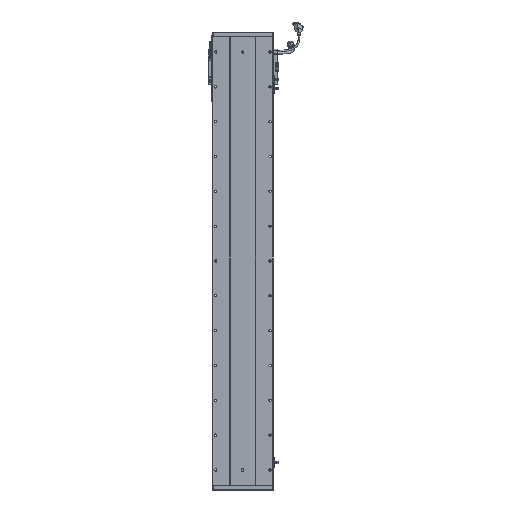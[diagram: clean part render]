
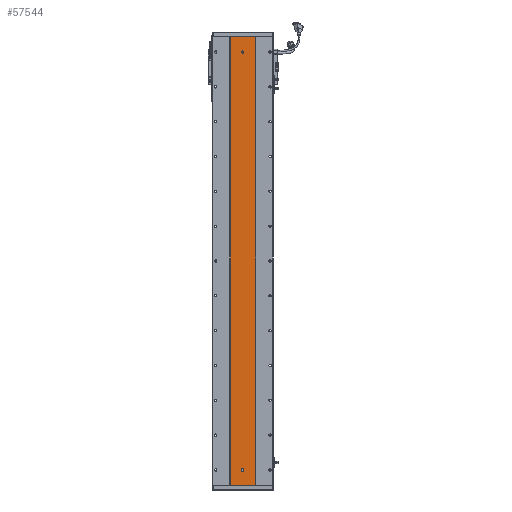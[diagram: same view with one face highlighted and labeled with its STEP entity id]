
A CAD part, front view. The second image highlights one B-rep face of the part: STEP entity #57544.
In plain terms, the highlighted planar face has unit normal (0, -1, 0).
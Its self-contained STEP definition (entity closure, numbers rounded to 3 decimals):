
#158 = DIRECTION ( 'NONE',  ( 1., 0., 0. ) ) ;
#595 = CARTESIAN_POINT ( 'NONE',  ( 3280.529, 1415.701, 42. ) ) ;
#1349 = DIRECTION ( 'NONE',  ( 0., 0., -1. ) ) ;
#1480 = ORIENTED_EDGE ( 'NONE', *, *, #73461, .F. ) ;
#3665 = DIRECTION ( 'NONE',  ( 0., -1., 0. ) ) ;
#3716 = VERTEX_POINT ( 'NONE', #85442 ) ;
#5263 = CARTESIAN_POINT ( 'NONE',  ( 3280.529, 1415.701, 1246.5 ) ) ;
#11320 = AXIS2_PLACEMENT_3D ( 'NONE', #74910, #11470, #83309 ) ;
#11470 = DIRECTION ( 'NONE',  ( 0., -1., 0. ) ) ;
#11764 = CARTESIAN_POINT ( 'NONE',  ( 3244.748, 1415.701, 1287. ) ) ;
#13455 = LINE ( 'NONE', #82526, #33621 ) ;
#14758 = ORIENTED_EDGE ( 'NONE', *, *, #62960, .F. ) ;
#15241 = DIRECTION ( 'NONE',  ( 0., 0., -1. ) ) ;
#15380 = VERTEX_POINT ( 'NONE', #18351 ) ;
#16739 = PLANE ( 'NONE',  #53251 ) ;
#17029 = EDGE_LOOP ( 'NONE', ( #47473, #48421, #14758, #29543, #57747 ) ) ;
#17344 = DIRECTION ( 'NONE',  ( 0., 0., 1. ) ) ;
#17769 = EDGE_CURVE ( 'NONE', #3716, #52389, #18645, .T. ) ;
#18351 = CARTESIAN_POINT ( 'NONE',  ( 3244.748, 1415.701, 0. ) ) ;
#18645 = LINE ( 'NONE', #29867, #24293 ) ;
#18707 = VERTEX_POINT ( 'NONE', #5263 ) ;
#18968 = DIRECTION ( 'NONE',  ( 0., 0., -1. ) ) ;
#19975 = DIRECTION ( 'NONE',  ( 0., 0., -1. ) ) ;
#20601 = VERTEX_POINT ( 'NONE', #36645 ) ;
#22859 = AXIS2_PLACEMENT_3D ( 'NONE', #58239, #30002, #15241 ) ;
#24293 = VECTOR ( 'NONE', #1349, 1000. ) ;
#24658 = EDGE_CURVE ( 'NONE', #46535, #18707, #62444, .T. ) ;
#26907 = CARTESIAN_POINT ( 'NONE',  ( 3316.311, 1415.701, 1287. ) ) ;
#27954 = VERTEX_POINT ( 'NONE', #64963 ) ;
#28897 = AXIS2_PLACEMENT_3D ( 'NONE', #595, #72771, #50775 ) ;
#29515 = VERTEX_POINT ( 'NONE', #30315 ) ;
#29543 = ORIENTED_EDGE ( 'NONE', *, *, #44567, .F. ) ;
#29867 = CARTESIAN_POINT ( 'NONE',  ( 3277.529, 1415.701, 45. ) ) ;
#30002 = DIRECTION ( 'NONE',  ( 0., -1., 0. ) ) ;
#30038 = DIRECTION ( 'NONE',  ( 0., 0., 1. ) ) ;
#30315 = CARTESIAN_POINT ( 'NONE',  ( 3244.748, 1415.701, 1287. ) ) ;
#30644 = CIRCLE ( 'NONE', #22859, 3. ) ;
#32008 = DIRECTION ( 'NONE',  ( 1., 0., 0. ) ) ;
#32378 = EDGE_LOOP ( 'NONE', ( #64932, #64999, #42554, #41474 ) ) ;
#33230 = CARTESIAN_POINT ( 'NONE',  ( 3280.529, 1415.701, 1240.5 ) ) ;
#33621 = VECTOR ( 'NONE', #32008, 1000. ) ;
#34603 = VECTOR ( 'NONE', #30038, 1000. ) ;
#35636 = LINE ( 'NONE', #26907, #64806 ) ;
#36645 = CARTESIAN_POINT ( 'NONE',  ( 3316.311, 1415.701, 1287. ) ) ;
#38491 = VECTOR ( 'NONE', #158, 1000. ) ;
#41474 = ORIENTED_EDGE ( 'NONE', *, *, #92795, .T. ) ;
#42032 = EDGE_LOOP ( 'NONE', ( #62744, #1480 ) ) ;
#42554 = ORIENTED_EDGE ( 'NONE', *, *, #63309, .F. ) ;
#44567 = EDGE_CURVE ( 'NONE', #27954, #87232, #54822, .T. ) ;
#45400 = CARTESIAN_POINT ( 'NONE',  ( 3280.529, 1415.701, 1243.5 ) ) ;
#46235 = CARTESIAN_POINT ( 'NONE',  ( 3244.748, 1415.701, 1287. ) ) ;
#46535 = VERTEX_POINT ( 'NONE', #33230 ) ;
#47473 = ORIENTED_EDGE ( 'NONE', *, *, #53002, .F. ) ;
#47698 = CIRCLE ( 'NONE', #11320, 3. ) ;
#48421 = ORIENTED_EDGE ( 'NONE', *, *, #17769, .F. ) ;
#48822 = AXIS2_PLACEMENT_3D ( 'NONE', #45400, #60472, #81490 ) ;
#49801 = VECTOR ( 'NONE', #18968, 1000. ) ;
#50754 = CARTESIAN_POINT ( 'NONE',  ( 3316.311, 1415.701, 0. ) ) ;
#50775 = DIRECTION ( 'NONE',  ( 0., 0., -1. ) ) ;
#52389 = VERTEX_POINT ( 'NONE', #87283 ) ;
#52864 = DIRECTION ( 'NONE',  ( 0., 1., 0. ) ) ;
#52918 = VERTEX_POINT ( 'NONE', #71508 ) ;
#53002 = EDGE_CURVE ( 'NONE', #52389, #52918, #66498, .T. ) ;
#53251 = AXIS2_PLACEMENT_3D ( 'NONE', #46235, #52864, #17344 ) ;
#53581 = FACE_OUTER_BOUND ( 'NONE', #32378, .T. ) ;
#54822 = LINE ( 'NONE', #80238, #34603 ) ;
#55348 = LINE ( 'NONE', #91099, #38491 ) ;
#56667 = VERTEX_POINT ( 'NONE', #50754 ) ;
#57544 = ADVANCED_FACE ( 'NONE', ( #81553, #62436, #53581 ), #16739, .F. ) ;
#57655 = LINE ( 'NONE', #11764, #49801 ) ;
#57747 = ORIENTED_EDGE ( 'NONE', *, *, #90051, .F. ) ;
#58239 = CARTESIAN_POINT ( 'NONE',  ( 3280.529, 1415.701, 45. ) ) ;
#60472 = DIRECTION ( 'NONE',  ( 0., -1., 0. ) ) ;
#60735 = DIRECTION ( 'NONE',  ( 0., 0., -1. ) ) ;
#62436 = FACE_BOUND ( 'NONE', #42032, .T. ) ;
#62444 = CIRCLE ( 'NONE', #48822, 3. ) ;
#62744 = ORIENTED_EDGE ( 'NONE', *, *, #24658, .F. ) ;
#62960 = EDGE_CURVE ( 'NONE', #87232, #3716, #30644, .T. ) ;
#63309 = EDGE_CURVE ( 'NONE', #29515, #20601, #55348, .T. ) ;
#64806 = VECTOR ( 'NONE', #19975, 1000. ) ;
#64932 = ORIENTED_EDGE ( 'NONE', *, *, #66263, .T. ) ;
#64963 = CARTESIAN_POINT ( 'NONE',  ( 3283.529, 1415.701, 42. ) ) ;
#64999 = ORIENTED_EDGE ( 'NONE', *, *, #87608, .F. ) ;
#66263 = EDGE_CURVE ( 'NONE', #15380, #56667, #13455, .T. ) ;
#66498 = CIRCLE ( 'NONE', #28897, 3. ) ;
#66721 = CARTESIAN_POINT ( 'NONE',  ( 3280.529, 1415.701, 1243.5 ) ) ;
#66847 = AXIS2_PLACEMENT_3D ( 'NONE', #66721, #3665, #60735 ) ;
#71508 = CARTESIAN_POINT ( 'NONE',  ( 3280.529, 1415.701, 39. ) ) ;
#72771 = DIRECTION ( 'NONE',  ( 0., -1., 0. ) ) ;
#73461 = EDGE_CURVE ( 'NONE', #18707, #46535, #81885, .T. ) ;
#74910 = CARTESIAN_POINT ( 'NONE',  ( 3280.529, 1415.701, 42. ) ) ;
#80238 = CARTESIAN_POINT ( 'NONE',  ( 3283.529, 1415.701, 45. ) ) ;
#81490 = DIRECTION ( 'NONE',  ( 0., 0., -1. ) ) ;
#81553 = FACE_BOUND ( 'NONE', #17029, .T. ) ;
#81885 = CIRCLE ( 'NONE', #66847, 3. ) ;
#82526 = CARTESIAN_POINT ( 'NONE',  ( 3244.748, 1415.701, 0. ) ) ;
#83309 = DIRECTION ( 'NONE',  ( 0., 0., -1. ) ) ;
#85442 = CARTESIAN_POINT ( 'NONE',  ( 3277.529, 1415.701, 45. ) ) ;
#87206 = CARTESIAN_POINT ( 'NONE',  ( 3283.529, 1415.701, 45. ) ) ;
#87232 = VERTEX_POINT ( 'NONE', #87206 ) ;
#87283 = CARTESIAN_POINT ( 'NONE',  ( 3277.529, 1415.701, 42. ) ) ;
#87608 = EDGE_CURVE ( 'NONE', #20601, #56667, #35636, .T. ) ;
#90051 = EDGE_CURVE ( 'NONE', #52918, #27954, #47698, .T. ) ;
#91099 = CARTESIAN_POINT ( 'NONE',  ( 3244.748, 1415.701, 1287. ) ) ;
#92795 = EDGE_CURVE ( 'NONE', #29515, #15380, #57655, .T. ) ;
